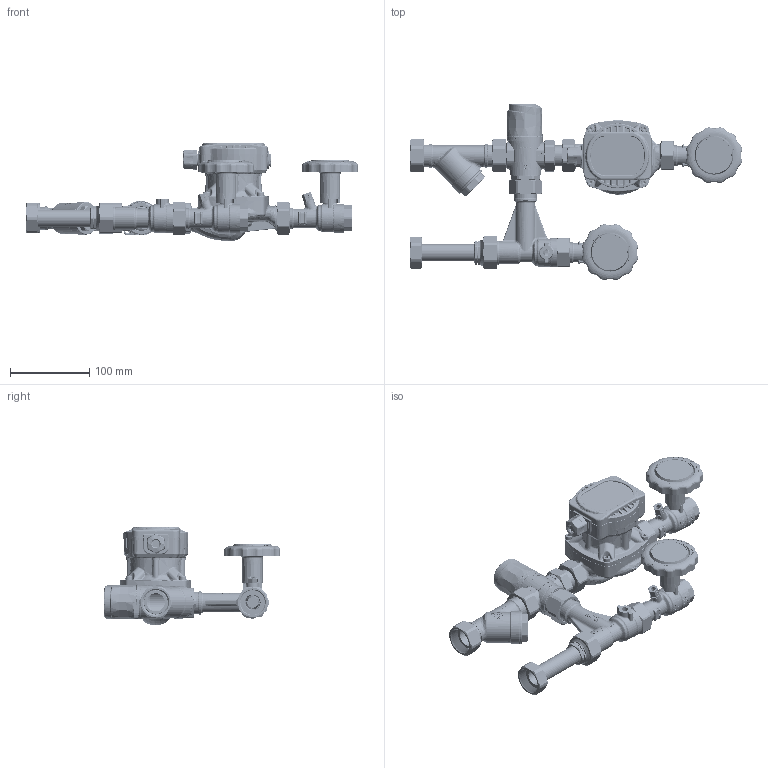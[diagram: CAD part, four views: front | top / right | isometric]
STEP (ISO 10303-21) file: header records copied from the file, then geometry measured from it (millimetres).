
FILE_DESCRIPTION (( 'STEP AP214' ), '1' );
FILE_NAME ('9099100.STEP', '2022-10-13T12:28:26', ( '' ), ( '' ), 'SwSTEP 2.0', 'SolidWorks 2022', '' );
FILE_SCHEMA (( 'AUTOMOTIVE_DESIGN' ));
Length unit declared in the file: millimetre
Products named in the file (48): Raccordo-840-34-Lavorato-31605312_Sabbiata_1; 67079_1; 70405017-1963-1DFx34F-GIALLO-MAN-NERA_ASSIEME; 67082_ATM361_1; M1605404-3404-1x1-Prolunga-Montata_1; Guarnizione-840-34-ptfe-52705005_1; Raccordo-840-34-Lavorato-31605312_Sabbiata; Anello-Elastico-553-S-1-53105253; Dado-553-S-1-Lavorato-31505553; Dado-553-S-1-Lavorato-31505553_1; maniglia-1870-1871_Nera; 3404-Prolunga-1Fx1DF-Lavorata-L1605404_1; 10405027-1963-1DFx34F-Maniglia-Termometro-Nera_TERMOMETRO_1; Sfera-300-34-Lavorata-33208005; Check-dn25-HT-con-alette_1; Dado-gruppo-imar-ch37-d23-Lavorato-51505423; Inserto-Maniglia-1870-52005071; Assieme-Filtro1; 21780_1; MANOPOLA_1; Misclatrice-Termostatica-ATM561-C-Lavoro-50105251_1; Sfera-300-34-Lavorata-33208005_1; 20405011-1963-34-GIALLO_ASSIEME; Tubo-22; O-ring-4125-PE32-52905023_2; Anello-Elastico-553-S-1-53105253_Per assemblaggio_1; Dado-1460- 1-Lavorato-31505460_2; 90405017-1963-1DFx34F-GIALLO-MAN-NERA_ASSIEME; Assieme-Valvola-Tee-Check_ASSIEME_1; 3438-Tappo Filtro Lavorato_2; 3384-DN20-Raccordo-1xTubo-Ř22-31705004; APH-100-15-7-130_LFP; 9099100; 41181_1; O-ring-2018-EPDM 70 N01C; Anello-Elastico-1460-Ř28x2-53105460_2; Dado-Fissaggio-Maniglia-1870-A-31505091; Corpo-1963-DN20-Lavorato-30105655; Filtro-1410-114-53505410_2; Corpo-Filtro-Lavorato_2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
Assembly tree (58 placements, depth 6):
  9099100
    Misclatrice-Termostatica-ATM561-C-Lavoro-50105251_1
      41181_1
      67082_ATM361_1
      21780_1
      67079_1
      67081_1
      MANOPOLA_1
    Assieme-Filtro1
      Corpo-Filtro-Lavorato_2
      Anello-Elastico-1460-Ř28x2-53105460_2  x2
      Dado-1460- 1-Lavorato-31505460_2  x2
      3438-Tappo Filtro Lavorato_2
      Filtro-1410-114-53505410_2
      O-ring-4125-PE32-52905023_2
    M1605404-3404-1x1-Prolunga-Montata_1
      3404-Prolunga-1Fx1DF-Lavorata-L1605404_1
      Anello-Elastico-553-S-1-53105253_Per assemblaggio_1
      Dado-553-S-1-Lavorato-31505553_1
    Assieme-Valvola-Tee-Check_ASSIEME_1
      Corpo-Valvola-DN20-Lavorato_1
      Sfera-300-34-Lavorata-33208005_1
      Guarnizione-840-34-ptfe-52705005_1  x2
      Raccordo-840-34-Lavorato-31605312_Sabbiata_1
      Dado-1460- 1-Lavorato-31505460_2  x2
      Anello-Elastico-1460-Ř28x2-53105460_2  x2
      Check-dn25-HT-con-alette_1
    pokretlo na termometr  x2
    10405027-1963-1DFx34F-Maniglia-Termometro-Nera_TERMOMETRO_1  x2
      70405017-1963-1DFx34F-GIALLO-MAN-NERA_ASSIEME
        90405017-1963-1DFx34F-GIALLO-MAN-NERA_ASSIEME
          20405011-1963-34-GIALLO_ASSIEME
            Corpo-1963-DN20-Lavorato-30105655
            Sfera-300-34-Lavorata-33208005
            Guarnizione-840-34-ptfe-52705005  x2
            Asta-840-12-Unificata-30505300
            O-ring-2018-EPDM 70 N01C  x2
            Raccordo-840-34-Lavorato-31605312_Sabbiata
          maniglia-1870-1871_Nera
          Dado-Fissaggio-Maniglia-1870-A-31505091
          Inserto-Maniglia-1870-52005071
          Grano-M4x6-52110003
          1961-S-Portasonda-_X2_0158_X0_6-Lavorato-30805032
        Anello-Elastico-553-S-1-53105253
        Dado-553-S-1-Lavorato-31505553
    APH-100-15-7-130_LFP
    Tubo-22-1DFx1M
      Tubo-22
      3384-DN20-Raccordo-1xTubo-Ř22-31705004
      Dado-gruppo-imar-ch37-d23-Lavorato-51505423
Bounding box: 419.55 x 222.83 x 123.64 mm (x, y, z)
Volume: 991139.7 mm3; surface area: 414620.8 mm2
Topology: 74 solids, 84 shells, 11134 faces, 27209 edges, 16455 vertices
Faces by surface type: plane 3141, bspline 2549, cylinder 2398, cone 2337, torus 499, sphere 210
Entity records: 436011 total; most frequent: CARTESIAN_POINT 242555, ORIENTED_EDGE 40369, DIRECTION 29793, EDGE_CURVE 20194, VERTEX_POINT 12238, AXIS2_PLACEMENT_3D 11411, EDGE_LOOP 8794, FACE_OUTER_BOUND 8370
